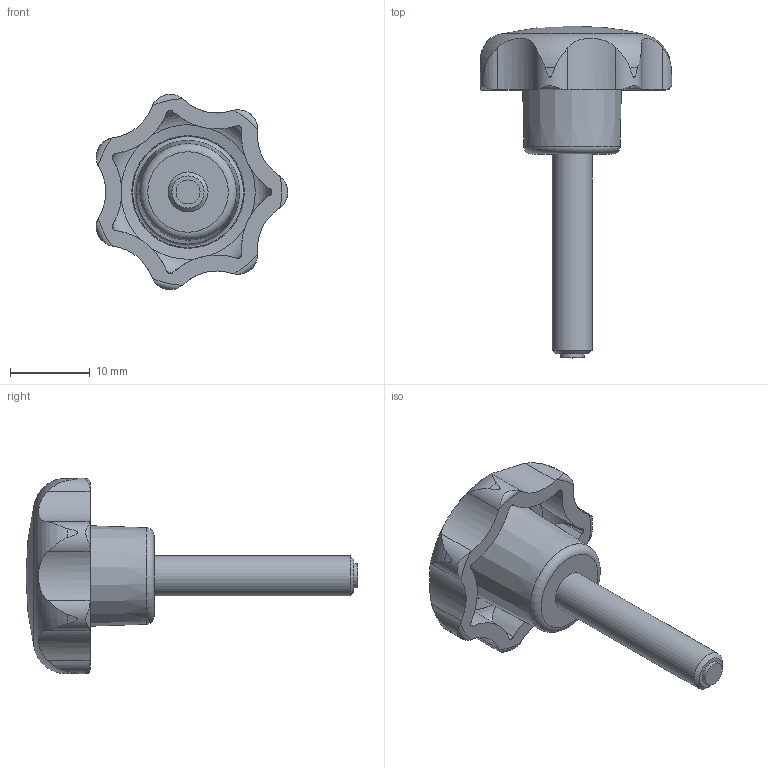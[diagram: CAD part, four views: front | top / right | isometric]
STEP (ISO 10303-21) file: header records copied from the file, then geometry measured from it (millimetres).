
FILE_DESCRIPTION( ( 'STEP AP203' ), '1' );
FILE_NAME( 'C:/Temp/Ganter_Step_05_03_2020/data/2_2/gn6336_10/Star knob GN 6336.10-25-M5-25-MS.stp', '2020-03-05T12:04:07', ( 'License CC BY-ND 4.0' ), ( 'CADENAS' ), ' ', 'PARTsolutions', ' ' );
FILE_SCHEMA( ( 'CONFIG_CONTROL_DESIGN' ) );
Length unit declared in the file: millimetre
Products named in the file (1): _Star knob GN 6336.10-25-M5-25-MS
Bounding box: 23.93 x 41.5 x 24.42 mm (x, y, z)
Volume: 3597 mm3; surface area: 2448.8 mm2
Topology: 1 solids, 1 shells, 70 faces, 194 edges, 128 vertices
Faces by surface type: cylinder 30, torus 18, cone 17, plane 4, sphere 1
Full cylindrical faces by diameter (mm): 3 x1, 5 x1
Entity records: 3018 total; most frequent: CARTESIAN_POINT 1333, ORIENTED_EDGE 358, DIRECTION 318, EDGE_CURVE 179, AXIS2_PLACEMENT_3D 145, VERTEX_POINT 124, EDGE_LOOP 82, B_SPLINE_CURVE_WITH_KNOTS 77
